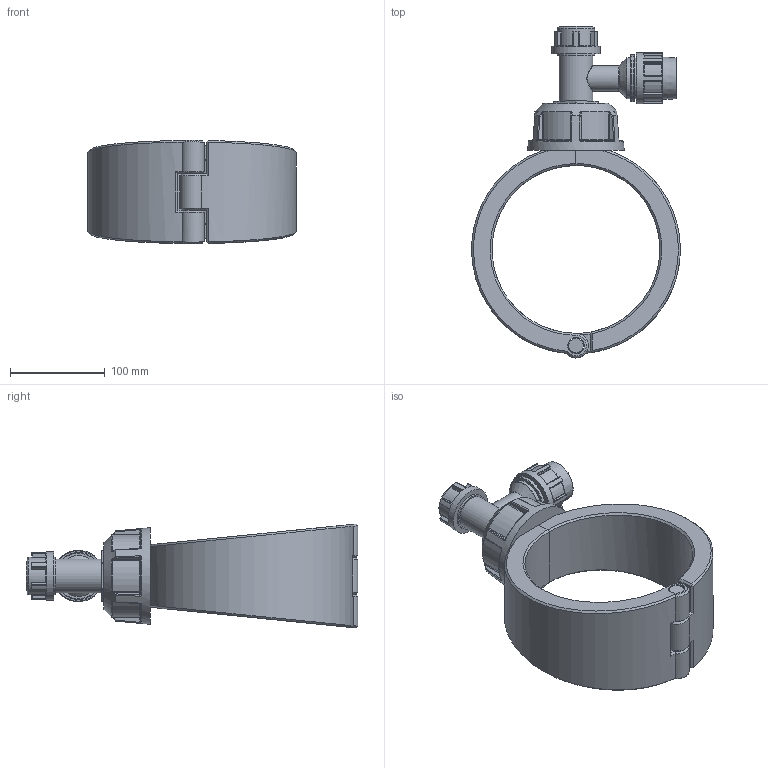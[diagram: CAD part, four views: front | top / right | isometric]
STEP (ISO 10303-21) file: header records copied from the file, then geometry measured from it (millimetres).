
FILE_DESCRIPTION(/* description */ ('Plassadle Tapper 177x25'),/* implementation_level */ '2;1');
FILE_NAME(/* name */ 'C:\Users\comp2\Dropbox\99-16-3568-Processing\Mechanical Fittings\16310\stp\1631061220250A.stp',/* time_stamp */ '2022-02-03T11:59:03+00:00',/* author */ ('comp2'),/* organization */ (''),/* preprocessor_version */ 'ST-DEVELOPER v17.2',/* originating_system */ 'Autodesk Inventor 2019',/* authorisation */ '');
FILE_SCHEMA (('AUTOMOTIVE_DESIGN { 1 0 10303 214 3 1 1 }'));
Length unit declared in the file: millimetre
Products named in the file (1): 1631061220250A
Bounding box: 219.87 x 349.99 x 109.6 mm (x, y, z)
Volume: 1661282.5 mm3; surface area: 208584.8 mm2
Topology: 4 solids, 4 shells, 519 faces, 1253 edges, 754 vertices
Faces by surface type: cylinder 184, plane 109, bspline 87, torus 83, sphere 40, cone 16
Full cylindrical faces by diameter (mm): 15.3 x1, 17.3 x3, 25 x1, 27 x1, 30.6 x1, 35.7 x1, 39.7 x2, 43.2 x2, 49.378 x1, 51 x1, 54 x1
Entity records: 18819 total; most frequent: CARTESIAN_POINT 7066, ORIENTED_EDGE 2508, DIRECTION 2426, EDGE_CURVE 1254, AXIS2_PLACEMENT_3D 1028, VERTEX_POINT 755, CIRCLE 563, EDGE_LOOP 537
